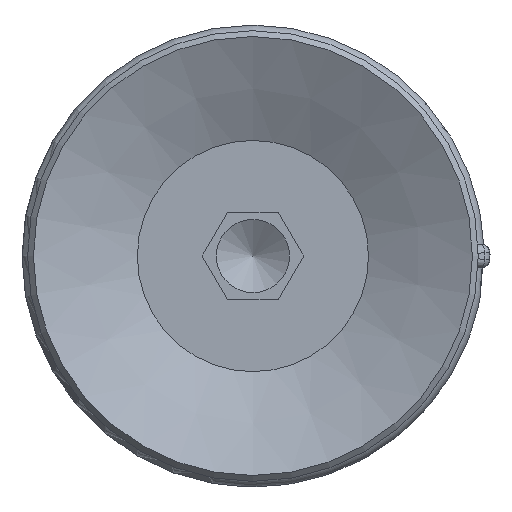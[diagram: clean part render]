
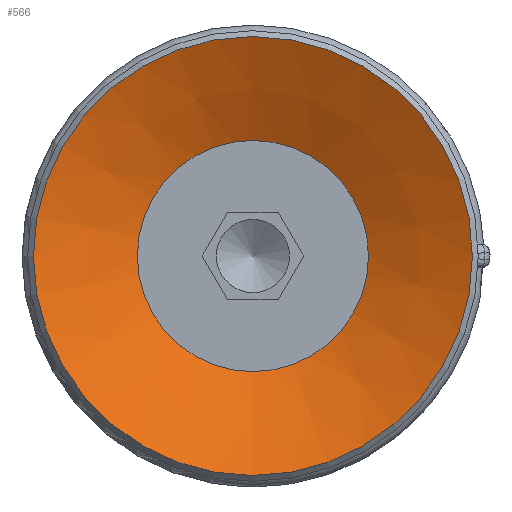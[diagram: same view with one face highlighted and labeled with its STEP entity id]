
A CAD part, front view. The second image highlights one B-rep face of the part: STEP entity #566.
In plain terms, the highlighted conical face has half-angle 64 degrees and reference radius 3.95 mm.
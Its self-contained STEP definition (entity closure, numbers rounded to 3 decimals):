
#566=ADVANCED_FACE('',(#838,#839),#840,.F.);
#838=FACE_BOUND('',#1223,.T.);
#839=FACE_OUTER_BOUND('',#1224,.T.);
#840=CONICAL_SURFACE('',#1225,3.95,1.117);
#1223=EDGE_LOOP('',(#1936));
#1224=EDGE_LOOP('',(#1937));
#1225=AXIS2_PLACEMENT_3D('',#1938,#1939,#1940);
#1936=ORIENTED_EDGE('',*,*,#2145,.F.);
#1937=ORIENTED_EDGE('',*,*,#2116,.T.);
#1938=CARTESIAN_POINT('',(0.0,-29.404,-47.168));
#1939=DIRECTION('',(-0.0,0.,1.0));
#1940=DIRECTION('',(0.0,-1.0,0.));
#2116=EDGE_CURVE('',#2428,#2428,#2429,.T.);
#2145=EDGE_CURVE('',#2474,#2474,#2475,.T.);
#2428=VERTEX_POINT('',#3324);
#2429=CIRCLE('',#3325,7.5);
#2474=VERTEX_POINT('',#3392);
#2475=CIRCLE('',#3393,3.95);
#3324=CARTESIAN_POINT('',(0.0,-36.904,-45.437));
#3325=AXIS2_PLACEMENT_3D('',#3644,#3645,#3646);
#3392=CARTESIAN_POINT('',(0.0,-33.354,-47.168));
#3393=AXIS2_PLACEMENT_3D('',#3716,#3717,#3718);
#3644=CARTESIAN_POINT('',(0.0,-29.404,-45.437));
#3645=DIRECTION('',(0.0,0.,1.0));
#3646=DIRECTION('',(0.0,-1.0,0.));
#3716=CARTESIAN_POINT('',(0.0,-29.404,-47.168));
#3717=DIRECTION('',(0.0,0.,1.0));
#3718=DIRECTION('',(0.0,-1.0,0.));
